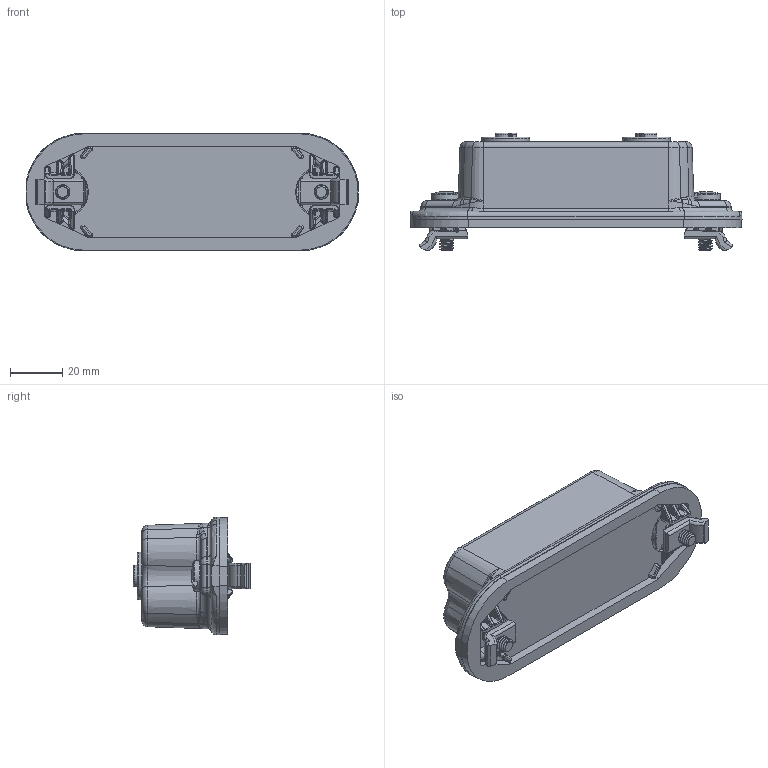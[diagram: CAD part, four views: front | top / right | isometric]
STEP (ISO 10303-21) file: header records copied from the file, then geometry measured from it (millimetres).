
FILE_DESCRIPTION(/* description */ ('PART (MM)'),/* implementation_level */ '2;1');
FILE_NAME(/* name */ 'L:\CAD Inventor\Workspace\Catalogs\TURCK BOXES\BCA1-F7-44-E224.stp',/* time_stamp */ '2021-11-30T12:59:58-06:00',/* author */ ('RSwans'),/* organization */ (''),/* preprocessor_version */ 'ST-DEVELOPER v16.5',/* originating_system */ 'Autodesk Inventor 2017',/* authorisation */ '');
FILE_SCHEMA (('AUTOMOTIVE_DESIGN { 1 0 10303 214 3 1 1 }'));
Products named in the file (1): Part12
Bounding box: 126.95 x 44.94 x 45.03 mm (x, y, z)
Volume: 58362.6 mm3; surface area: 42517.9 mm2
Topology: 1 solids, 32 shells, 2394 faces, 6175 edges, 3679 vertices
Faces by surface type: cylinder 752, bspline 603, plane 561, cone 215, torus 187, sphere 76
Full cylindrical faces by diameter (mm): 1 x8, 1.4 x8, 1.5 x4, 1.6 x8, 1.7 x20, 2 x8, 8 x2, 9 x2, 9.45 x2, 9.6 x2, 11 x4, 11.532 x2, 12 x2, 12.3 x2, 13.9 x2, 14.1 x2, 14.2 x2, 15 x2, 18.25 x4
Entity records: 104152 total; most frequent: CARTESIAN_POINT 47947, ORIENTED_EDGE 11782, DIRECTION 11737, EDGE_CURVE 5829, AXIS2_PLACEMENT_3D 5029, VERTEX_POINT 3609, CIRCLE 2854, EDGE_LOOP 2714
